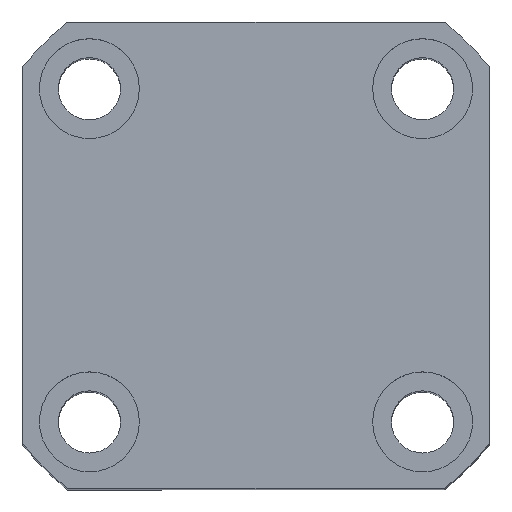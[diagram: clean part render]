
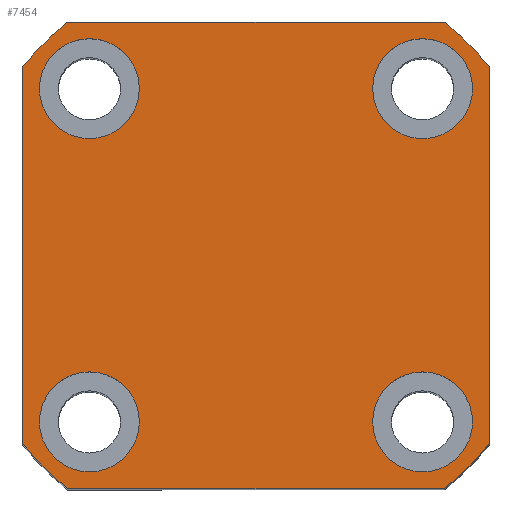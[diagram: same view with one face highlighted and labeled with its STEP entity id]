
A CAD part, top view. The second image highlights one B-rep face of the part: STEP entity #7454.
In plain terms, the highlighted planar face has unit normal (0, 0, 1).
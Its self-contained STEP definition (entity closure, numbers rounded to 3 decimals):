
#52 = CARTESIAN_POINT ( 'NONE',  ( 0., 0., 78. ) ) ;
#94 = DIRECTION ( 'NONE',  ( 0., 0., 1. ) ) ;
#105 = CARTESIAN_POINT ( 'NONE',  ( 21., -16.971, 78. ) ) ;
#368 = CARTESIAN_POINT ( 'NONE',  ( 19.5, -14.998, 78. ) ) ;
#377 = VERTEX_POINT ( 'NONE', #13516 ) ;
#506 = EDGE_LOOP ( 'NONE', ( #5093, #13299 ) ) ;
#580 = AXIS2_PLACEMENT_3D ( 'NONE', #2480, #9958, #3538 ) ;
#631 = DIRECTION ( 'NONE',  ( 0., 0., 1. ) ) ;
#671 = DIRECTION ( 'NONE',  ( 1., 0., 0. ) ) ;
#837 = ORIENTED_EDGE ( 'NONE', *, *, #8697, .T. ) ;
#914 = DIRECTION ( 'NONE',  ( -1., 0., 0. ) ) ;
#983 = CARTESIAN_POINT ( 'NONE',  ( 16.971, 21., 78. ) ) ;
#985 = DIRECTION ( 'NONE',  ( 1., 0., 0. ) ) ;
#1044 = AXIS2_PLACEMENT_3D ( 'NONE', #2798, #10285, #3876 ) ;
#1154 = DIRECTION ( 'NONE',  ( 1., 0., 0. ) ) ;
#1183 = EDGE_CURVE ( 'NONE', #12300, #11618, #4589, .T. ) ;
#1449 = CARTESIAN_POINT ( 'NONE',  ( -10.5, 15.002, 78. ) ) ;
#1471 = LINE ( 'NONE', #12572, #6764 ) ;
#1533 = EDGE_CURVE ( 'NONE', #9590, #12300, #7901, .T. ) ;
#1582 = CARTESIAN_POINT ( 'NONE',  ( -21., 21., 78. ) ) ;
#1723 = CIRCLE ( 'NONE', #4879, 4.5 ) ;
#1943 = CARTESIAN_POINT ( 'NONE',  ( -16.971, -21., 78. ) ) ;
#1994 = DIRECTION ( 'NONE',  ( 1., 0., 0. ) ) ;
#2041 = DIRECTION ( 'NONE',  ( 0., 0., 1. ) ) ;
#2175 = VERTEX_POINT ( 'NONE', #12351 ) ;
#2275 = CARTESIAN_POINT ( 'NONE',  ( 0., 0., 78. ) ) ;
#2288 = FACE_OUTER_BOUND ( 'NONE', #4892, .T. ) ;
#2316 = CARTESIAN_POINT ( 'NONE',  ( 15., 15., 78. ) ) ;
#2480 = CARTESIAN_POINT ( 'NONE',  ( -15., -14.998, 78. ) ) ;
#2513 = LINE ( 'NONE', #4656, #5356 ) ;
#2598 = ORIENTED_EDGE ( 'NONE', *, *, #13380, .F. ) ;
#2616 = CIRCLE ( 'NONE', #13359, 27. ) ;
#2798 = CARTESIAN_POINT ( 'NONE',  ( -15., -14.998, 78. ) ) ;
#2872 = CIRCLE ( 'NONE', #3997, 27. ) ;
#2927 = ORIENTED_EDGE ( 'NONE', *, *, #5926, .F. ) ;
#2980 = ORIENTED_EDGE ( 'NONE', *, *, #10290, .T. ) ;
#3106 = AXIS2_PLACEMENT_3D ( 'NONE', #5062, #12567, #6121 ) ;
#3258 = EDGE_CURVE ( 'NONE', #13388, #10508, #13814, .T. ) ;
#3365 = DIRECTION ( 'NONE',  ( 1., 0., 0. ) ) ;
#3474 = VERTEX_POINT ( 'NONE', #12026 ) ;
#3538 = DIRECTION ( 'NONE',  ( 1., 0., 0. ) ) ;
#3565 = LINE ( 'NONE', #10041, #11807 ) ;
#3649 = ORIENTED_EDGE ( 'NONE', *, *, #7917, .T. ) ;
#3797 = CARTESIAN_POINT ( 'NONE',  ( 0., 0., 78. ) ) ;
#3876 = DIRECTION ( 'NONE',  ( 1., 0., 0. ) ) ;
#3997 = AXIS2_PLACEMENT_3D ( 'NONE', #52, #7476, #1154 ) ;
#4104 = EDGE_CURVE ( 'NONE', #5335, #3474, #12950, .T. ) ;
#4589 = CIRCLE ( 'NONE', #8271, 27. ) ;
#4598 = ORIENTED_EDGE ( 'NONE', *, *, #13597, .F. ) ;
#4634 = CARTESIAN_POINT ( 'NONE',  ( -19.5, -14.998, 78. ) ) ;
#4656 = CARTESIAN_POINT ( 'NONE',  ( -21., 21., 78. ) ) ;
#4683 = CARTESIAN_POINT ( 'NONE',  ( 0., 0., 78. ) ) ;
#4864 = DIRECTION ( 'NONE',  ( 1., 0., 0. ) ) ;
#4879 = AXIS2_PLACEMENT_3D ( 'NONE', #11735, #5313, #12821 ) ;
#4892 = EDGE_LOOP ( 'NONE', ( #7296, #13043, #10854, #13728, #2980, #11542, #837, #3649 ) ) ;
#4994 = VERTEX_POINT ( 'NONE', #368 ) ;
#5002 = CARTESIAN_POINT ( 'NONE',  ( 10.5, 15., 78. ) ) ;
#5042 = CARTESIAN_POINT ( 'NONE',  ( -19.5, 15.002, 78. ) ) ;
#5062 = CARTESIAN_POINT ( 'NONE',  ( 15., 15., 78. ) ) ;
#5079 = AXIS2_PLACEMENT_3D ( 'NONE', #6471, #94, #7511 ) ;
#5093 = ORIENTED_EDGE ( 'NONE', *, *, #3258, .F. ) ;
#5127 = FACE_BOUND ( 'NONE', #6216, .T. ) ;
#5313 = DIRECTION ( 'NONE',  ( 0., 0., 1. ) ) ;
#5335 = VERTEX_POINT ( 'NONE', #5002 ) ;
#5356 = VECTOR ( 'NONE', #5719, 1000. ) ;
#5427 = CARTESIAN_POINT ( 'NONE',  ( -10.5, -14.998, 78. ) ) ;
#5524 = EDGE_CURVE ( 'NONE', #5715, #10086, #2872, .T. ) ;
#5546 = VERTEX_POINT ( 'NONE', #105 ) ;
#5556 = EDGE_CURVE ( 'NONE', #3474, #5335, #11773, .T. ) ;
#5715 = VERTEX_POINT ( 'NONE', #11048 ) ;
#5719 = DIRECTION ( 'NONE',  ( 0., -1., 0. ) ) ;
#5748 = DIRECTION ( 'NONE',  ( 1., 0., 0. ) ) ;
#5813 = VERTEX_POINT ( 'NONE', #4634 ) ;
#5866 = AXIS2_PLACEMENT_3D ( 'NONE', #6992, #631, #8066 ) ;
#5900 = EDGE_CURVE ( 'NONE', #377, #9590, #2616, .T. ) ;
#5926 = EDGE_CURVE ( 'NONE', #4994, #2175, #8279, .T. ) ;
#5969 = EDGE_CURVE ( 'NONE', #10508, #13388, #10815, .T. ) ;
#6121 = DIRECTION ( 'NONE',  ( 1., 0., 0. ) ) ;
#6216 = EDGE_LOOP ( 'NONE', ( #4598, #2598 ) ) ;
#6437 = ORIENTED_EDGE ( 'NONE', *, *, #5556, .F. ) ;
#6471 = CARTESIAN_POINT ( 'NONE',  ( -15., 15.002, 78. ) ) ;
#6485 = VERTEX_POINT ( 'NONE', #5427 ) ;
#6511 = EDGE_LOOP ( 'NONE', ( #2927, #8594 ) ) ;
#6764 = VECTOR ( 'NONE', #9270, 1000. ) ;
#6992 = CARTESIAN_POINT ( 'NONE',  ( 15., -14.998, 78. ) ) ;
#7036 = DIRECTION ( 'NONE',  ( 0., 0., 1. ) ) ;
#7054 = EDGE_CURVE ( 'NONE', #5546, #377, #1471, .T. ) ;
#7078 = CIRCLE ( 'NONE', #12257, 27. ) ;
#7289 = AXIS2_PLACEMENT_3D ( 'NONE', #13508, #7036, #671 ) ;
#7296 = ORIENTED_EDGE ( 'NONE', *, *, #7054, .T. ) ;
#7326 = DIRECTION ( 'NONE',  ( 0., 0., 1. ) ) ;
#7437 = CARTESIAN_POINT ( 'NONE',  ( -16.971, 21., 78. ) ) ;
#7454 = ADVANCED_FACE ( 'NONE', ( #7914, #5127, #11149, #8270, #2288 ), #8875, .T. ) ;
#7476 = DIRECTION ( 'NONE',  ( 0., 0., 1. ) ) ;
#7511 = DIRECTION ( 'NONE',  ( 1., 0., 0. ) ) ;
#7901 = LINE ( 'NONE', #1582, #13327 ) ;
#7914 = FACE_BOUND ( 'NONE', #506, .T. ) ;
#7917 = EDGE_CURVE ( 'NONE', #9083, #5546, #7078, .T. ) ;
#8066 = DIRECTION ( 'NONE',  ( 1., 0., 0. ) ) ;
#8270 = FACE_BOUND ( 'NONE', #8901, .T. ) ;
#8271 = AXIS2_PLACEMENT_3D ( 'NONE', #2275, #2041, #1994 ) ;
#8279 = CIRCLE ( 'NONE', #5866, 4.5 ) ;
#8594 = ORIENTED_EDGE ( 'NONE', *, *, #9306, .F. ) ;
#8697 = EDGE_CURVE ( 'NONE', #10086, #9083, #3565, .T. ) ;
#8875 = PLANE ( 'NONE',  #12058 ) ;
#8901 = EDGE_LOOP ( 'NONE', ( #6437, #12170 ) ) ;
#9004 = AXIS2_PLACEMENT_3D ( 'NONE', #2316, #9784, #3365 ) ;
#9083 = VERTEX_POINT ( 'NONE', #10212 ) ;
#9260 = CIRCLE ( 'NONE', #1044, 4.5 ) ;
#9270 = DIRECTION ( 'NONE',  ( 0., 1., 0. ) ) ;
#9306 = EDGE_CURVE ( 'NONE', #2175, #4994, #1723, .T. ) ;
#9590 = VERTEX_POINT ( 'NONE', #983 ) ;
#9784 = DIRECTION ( 'NONE',  ( 0., 0., 1. ) ) ;
#9958 = DIRECTION ( 'NONE',  ( 0., 0., 1. ) ) ;
#10041 = CARTESIAN_POINT ( 'NONE',  ( -21., -21., 78. ) ) ;
#10086 = VERTEX_POINT ( 'NONE', #1943 ) ;
#10212 = CARTESIAN_POINT ( 'NONE',  ( 16.971, -21., 78. ) ) ;
#10285 = DIRECTION ( 'NONE',  ( 0., 0., 1. ) ) ;
#10290 = EDGE_CURVE ( 'NONE', #11618, #5715, #2513, .T. ) ;
#10508 = VERTEX_POINT ( 'NONE', #5042 ) ;
#10815 = CIRCLE ( 'NONE', #7289, 4.5 ) ;
#10854 = ORIENTED_EDGE ( 'NONE', *, *, #1533, .T. ) ;
#11048 = CARTESIAN_POINT ( 'NONE',  ( -21., -16.971, 78. ) ) ;
#11144 = DIRECTION ( 'NONE',  ( 1., 0., 0. ) ) ;
#11149 = FACE_BOUND ( 'NONE', #6511, .T. ) ;
#11292 = DIRECTION ( 'NONE',  ( 0., 0., 1. ) ) ;
#11542 = ORIENTED_EDGE ( 'NONE', *, *, #5524, .T. ) ;
#11618 = VERTEX_POINT ( 'NONE', #11785 ) ;
#11735 = CARTESIAN_POINT ( 'NONE',  ( 15., -14.998, 78. ) ) ;
#11773 = CIRCLE ( 'NONE', #9004, 4.5 ) ;
#11785 = CARTESIAN_POINT ( 'NONE',  ( -21., 16.971, 78. ) ) ;
#11807 = VECTOR ( 'NONE', #11144, 1000. ) ;
#12026 = CARTESIAN_POINT ( 'NONE',  ( 19.5, 15., 78. ) ) ;
#12058 = AXIS2_PLACEMENT_3D ( 'NONE', #4683, #12211, #5748 ) ;
#12170 = ORIENTED_EDGE ( 'NONE', *, *, #4104, .F. ) ;
#12211 = DIRECTION ( 'NONE',  ( 0., 0., 1. ) ) ;
#12257 = AXIS2_PLACEMENT_3D ( 'NONE', #13804, #7326, #985 ) ;
#12300 = VERTEX_POINT ( 'NONE', #7437 ) ;
#12351 = CARTESIAN_POINT ( 'NONE',  ( 10.5, -14.998, 78. ) ) ;
#12567 = DIRECTION ( 'NONE',  ( 0., 0., 1. ) ) ;
#12572 = CARTESIAN_POINT ( 'NONE',  ( 21., 21., 78. ) ) ;
#12821 = DIRECTION ( 'NONE',  ( 1., 0., 0. ) ) ;
#12950 = CIRCLE ( 'NONE', #3106, 4.5 ) ;
#13043 = ORIENTED_EDGE ( 'NONE', *, *, #5900, .T. ) ;
#13299 = ORIENTED_EDGE ( 'NONE', *, *, #5969, .F. ) ;
#13327 = VECTOR ( 'NONE', #914, 1000. ) ;
#13359 = AXIS2_PLACEMENT_3D ( 'NONE', #3797, #11292, #4864 ) ;
#13380 = EDGE_CURVE ( 'NONE', #5813, #6485, #13485, .T. ) ;
#13388 = VERTEX_POINT ( 'NONE', #1449 ) ;
#13485 = CIRCLE ( 'NONE', #580, 4.5 ) ;
#13508 = CARTESIAN_POINT ( 'NONE',  ( -15., 15.002, 78. ) ) ;
#13516 = CARTESIAN_POINT ( 'NONE',  ( 21., 16.971, 78. ) ) ;
#13597 = EDGE_CURVE ( 'NONE', #6485, #5813, #9260, .T. ) ;
#13728 = ORIENTED_EDGE ( 'NONE', *, *, #1183, .T. ) ;
#13804 = CARTESIAN_POINT ( 'NONE',  ( 0., 0., 78. ) ) ;
#13814 = CIRCLE ( 'NONE', #5079, 4.5 ) ;
